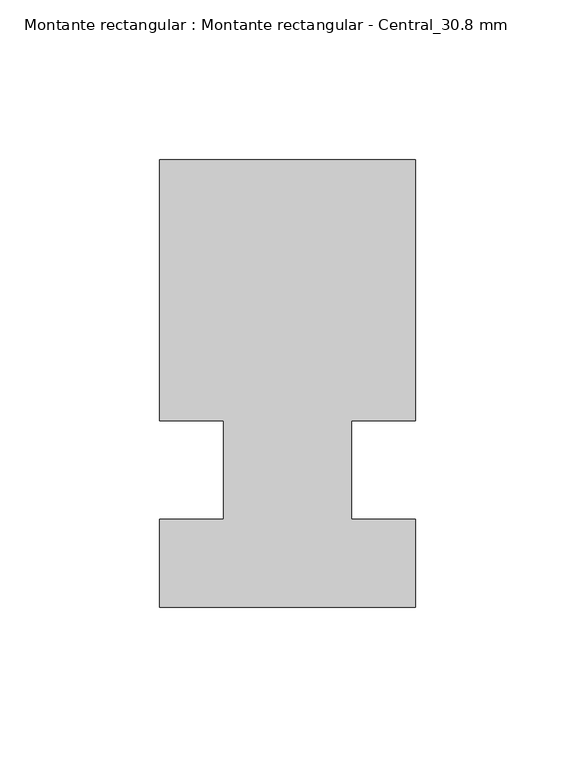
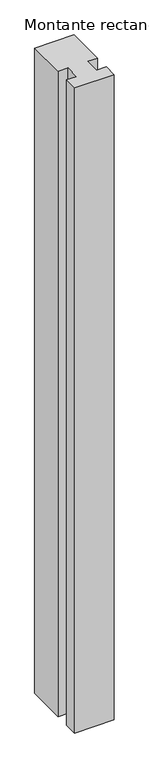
"""IFC4 building model written with IfcOpenShell, lengths in millimetres: member geometry, Montante rectangular : Montante rectangular - Central_30.8 mm."""

from ifc_helpers import new_model, si_unit, frame, origin, place, context, project, spatial, polyline, outline, extrude, source, transform, mapped, element, save


def montante_rectangular_montante_rectangular_central_30_8_mm_2cc1dee6(model_context):
    return source(origin(), model_context, "Body", "SweptSolid", [
        extrude(outline(polyline([(-40.0, 80.0), (40.0, 80.0), (40.0, -1.6), (20.0, -1.6), (20.0, -32.4), (40.0, -32.4), (40.0, -60.0), (-40.0, -60.0), (-40.0, -32.4), (-20.0, -32.4), (-20.0, -1.6), (-40.0, -1.6), (-40.0, 80.0)])), frame((0.0, 0.0, -1380.0), z_axis=(0.0, 0.0, 1.0), x_axis=(1.0, 0.0, 0.0)), (0.0, 0.0, 1.0), 1380.0),
    ])


if __name__ == "__main__":
    model = new_model("IFC4")
    model_context = context("Model", 3, world=origin())
    ifc_project = project(units=[si_unit("LENGTHUNIT", "METRE", prefix="MILLI")], contexts=[model_context])
    site = spatial("IfcSite", under=ifc_project)
    building = spatial("IfcBuilding", under=site)
    placement = place(None, origin())
    montante_rectangular_montante_rectangular_central_30_8_mm_shape = montante_rectangular_montante_rectangular_central_30_8_mm_2cc1dee6(model_context)
    element("IfcMember", 1, ObjectType="Montante rectangular : Montante rectangular - Central_30.8 mm", at=placement, inside=building, context=model_context, shape_type="MappedRepresentation", body=[
        mapped(montante_rectangular_montante_rectangular_central_30_8_mm_shape, transform((0.0, 0.0, 0.0), x_axis=(1.0, 0.0, 0.0), y_axis=(0.0, 1.0, 0.0), z_axis=(0.0, 0.0, 1.0))),
    ])
    save(model, "model.ifc")
